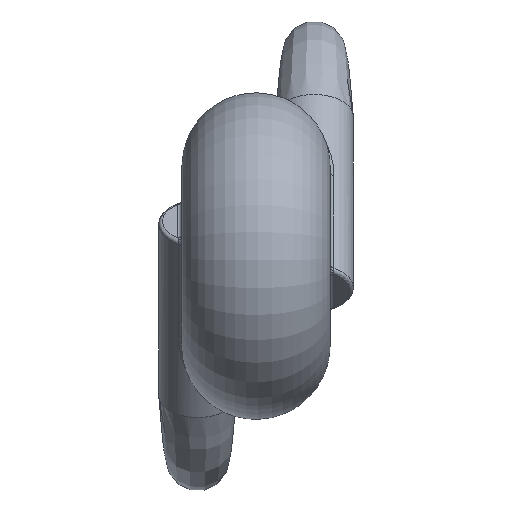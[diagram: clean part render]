
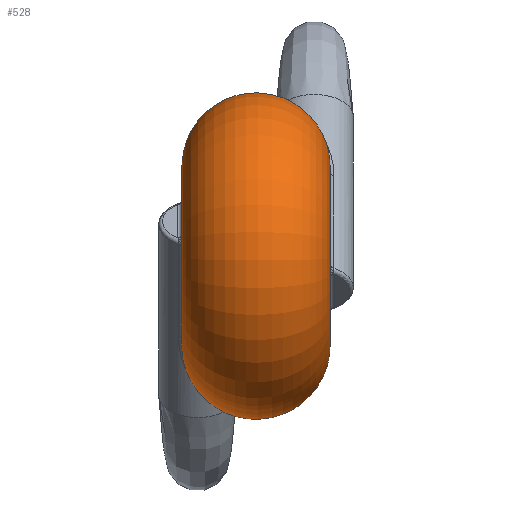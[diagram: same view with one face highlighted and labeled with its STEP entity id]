
A CAD part, left-side view. The second image highlights one B-rep face of the part: STEP entity #528.
In plain terms, the highlighted toroidal (fillet/blend) face has major radius 2.295 mm and minor radius 1.905 mm.
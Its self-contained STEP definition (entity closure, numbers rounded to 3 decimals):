
#20=TOROIDAL_SURFACE('',#582,2.295,1.905);
#77=B_SPLINE_CURVE_WITH_KNOTS('',3,(#1711,#1712,#1713,#1714,#1715,#1716,
#1717,#1718,#1719,#1720,#1721,#1722,#1723,#1724,#1725,#1726),
 .UNSPECIFIED.,.F.,.F.,(4,1,1,1,1,1,1,1,1,1,1,1,1,4),(-0.768,
-0.713,-0.658,-0.549,-0.494,
-0.439,-0.384,-0.329,-0.274,
-0.219,-0.165,-0.11,-0.055,
0.),.UNSPECIFIED.);
#78=B_SPLINE_CURVE_WITH_KNOTS('',3,(#1732,#1733,#1734,#1735,#1736,#1737,
#1738,#1739,#1740,#1741,#1742,#1743,#1744,#1745,#1746),.UNSPECIFIED.,.F.,
 .F.,(4,1,1,1,1,1,1,1,1,1,1,1,4),(-0.768,-0.713,
-0.658,-0.549,-0.494,-0.439,
-0.384,-0.329,-0.274,-0.219,
-0.11,-0.055,0.),
 .UNSPECIFIED.);
#95=FACE_BOUND('',#167,.T.);
#125=FACE_OUTER_BOUND('',#166,.T.);
#166=EDGE_LOOP('',(#417,#418));
#167=EDGE_LOOP('',(#419,#420));
#205=CIRCLE('',#583,2.295);
#206=CIRCLE('',#584,2.295);
#245=VERTEX_POINT('',#1626);
#246=VERTEX_POINT('',#1709);
#247=VERTEX_POINT('',#1730);
#248=VERTEX_POINT('',#1731);
#308=EDGE_CURVE('',#246,#245,#77,.T.);
#310=EDGE_CURVE('',#247,#248,#78,.T.);
#311=EDGE_CURVE('',#247,#248,#205,.T.);
#312=EDGE_CURVE('',#246,#245,#206,.T.);
#417=ORIENTED_EDGE('',*,*,#310,.F.);
#418=ORIENTED_EDGE('',*,*,#311,.T.);
#419=ORIENTED_EDGE('',*,*,#308,.F.);
#420=ORIENTED_EDGE('',*,*,#312,.T.);
#528=ADVANCED_FACE('',(#125,#95),#20,.T.);
#582=AXIS2_PLACEMENT_3D('',#1729,#693,#694);
#583=AXIS2_PLACEMENT_3D('',#1747,#695,#696);
#584=AXIS2_PLACEMENT_3D('',#1748,#697,#698);
#693=DIRECTION('center_axis',(0.,1.,0.));
#694=DIRECTION('ref_axis',(1.,0.,0.));
#695=DIRECTION('center_axis',(0.,1.,0.));
#696=DIRECTION('ref_axis',(-1.,0.,0.));
#697=DIRECTION('center_axis',(0.,-1.,0.));
#698=DIRECTION('ref_axis',(-1.,0.,0.));
#1626=CARTESIAN_POINT('',(0.772,3.,-2.161));
#1709=CARTESIAN_POINT('',(2.213,3.,-0.606));
#1711=CARTESIAN_POINT('Ctrl Pts',(2.213,3.,-0.606));
#1712=CARTESIAN_POINT('Ctrl Pts',(2.306,3.,-0.752));
#1713=CARTESIAN_POINT('Ctrl Pts',(2.504,2.973,-1.031));
#1714=CARTESIAN_POINT('Ctrl Pts',(2.939,2.77,-1.503));
#1715=CARTESIAN_POINT('Ctrl Pts',(3.299,2.333,-1.895));
#1716=CARTESIAN_POINT('Ctrl Pts',(3.33,1.819,-2.35));
#1717=CARTESIAN_POINT('Ctrl Pts',(3.16,1.495,-2.724));
#1718=CARTESIAN_POINT('Ctrl Pts',(2.821,1.334,-3.107));
#1719=CARTESIAN_POINT('Ctrl Pts',(2.397,1.399,-3.435));
#1720=CARTESIAN_POINT('Ctrl Pts',(1.983,1.682,-3.618));
#1721=CARTESIAN_POINT('Ctrl Pts',(1.655,2.082,-3.585));
#1722=CARTESIAN_POINT('Ctrl Pts',(1.422,2.469,-3.357));
#1723=CARTESIAN_POINT('Ctrl Pts',(1.237,2.77,-3.002));
#1724=CARTESIAN_POINT('Ctrl Pts',(1.044,2.959,-2.58));
#1725=CARTESIAN_POINT('Ctrl Pts',(0.871,3.,-2.295));
#1726=CARTESIAN_POINT('Ctrl Pts',(0.772,3.,-2.161));
#1729=CARTESIAN_POINT('Origin',(0.,1.095,0.));
#1730=CARTESIAN_POINT('',(2.213,-0.81,0.606));
#1731=CARTESIAN_POINT('',(0.772,-0.81,2.161));
#1732=CARTESIAN_POINT('Ctrl Pts',(2.213,-0.81,0.606));
#1733=CARTESIAN_POINT('Ctrl Pts',(2.306,-0.81,0.752));
#1734=CARTESIAN_POINT('Ctrl Pts',(2.504,-0.783,1.031));
#1735=CARTESIAN_POINT('Ctrl Pts',(2.939,-0.581,1.502));
#1736=CARTESIAN_POINT('Ctrl Pts',(3.299,-0.142,1.896));
#1737=CARTESIAN_POINT('Ctrl Pts',(3.33,0.371,2.35));
#1738=CARTESIAN_POINT('Ctrl Pts',(3.16,0.694,2.724));
#1739=CARTESIAN_POINT('Ctrl Pts',(2.821,0.856,3.107));
#1740=CARTESIAN_POINT('Ctrl Pts',(2.396,0.791,3.435));
#1741=CARTESIAN_POINT('Ctrl Pts',(1.984,0.509,3.618));
#1742=CARTESIAN_POINT('Ctrl Pts',(1.545,-0.029,
3.574));
#1743=CARTESIAN_POINT('Ctrl Pts',(1.3,-0.521,3.142));
#1744=CARTESIAN_POINT('Ctrl Pts',(1.045,-0.767,2.58));
#1745=CARTESIAN_POINT('Ctrl Pts',(0.871,-0.81,2.295));
#1746=CARTESIAN_POINT('Ctrl Pts',(0.772,-0.81,2.161));
#1747=CARTESIAN_POINT('Origin',(0.,-0.81,0.));
#1748=CARTESIAN_POINT('Origin',(0.,3.,0.));
